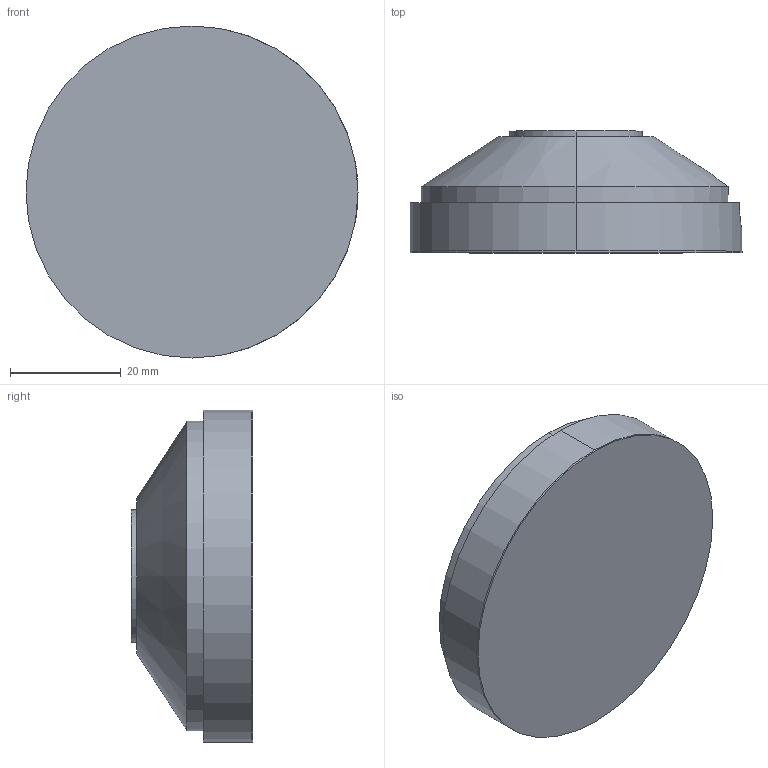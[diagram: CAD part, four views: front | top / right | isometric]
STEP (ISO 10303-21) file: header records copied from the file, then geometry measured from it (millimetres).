
FILE_DESCRIPTION (( 'STEP AP203' ), '1' );
FILE_NAME ('EZ-0053-060 Standardlager Bestell-Nr. 0001995.STEP', '2021-09-16T15:19:25', ( '' ), ( '' ), 'SwSTEP 2.0', 'SolidWorks 2021', '' );
FILE_SCHEMA (( 'CONFIG_CONTROL_DESIGN' ));
Length unit declared in the file: millimetre
Products named in the file (1): EZ-0053-060 Standardlager  Bestell-Nr. 0001995
Bounding box: 60 x 22 x 60 mm (x, y, z)
Volume: 45257.2 mm3; surface area: 14719.1 mm2
Topology: 4 solids, 4 shells, 79 faces, 174 edges, 108 vertices
Faces by surface type: cylinder 34, plane 23, cone 12, torus 8, sphere 2
Entity records: 2299 total; most frequent: CARTESIAN_POINT 424, DIRECTION 420, ORIENTED_EDGE 340, AXIS2_PLACEMENT_3D 178, EDGE_CURVE 170, VERTEX_POINT 108, CIRCLE 98, EDGE_LOOP 90
